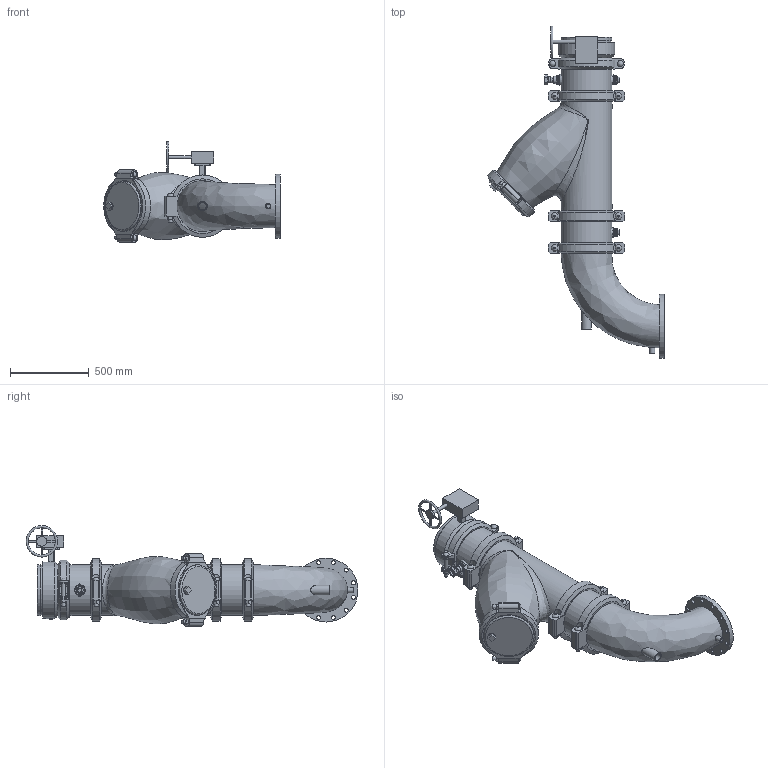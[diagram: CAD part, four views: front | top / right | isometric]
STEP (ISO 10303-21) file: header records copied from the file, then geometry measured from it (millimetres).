
FILE_DESCRIPTION(/* description */ ('VIC SVI PUMP DROP HORZ S/382 (OGSxFLG) (S/924-1.25)','CAx-IF Rec.Pracs.---Representation and Presentation of Product Manufacturing Information (PMI)---4.0---2014-10-13'),/* implementation_level */ '2;1');
FILE_NAME(/* name */ 'C:\Users\Vjadhav\AppData\Roaming\Autodesk\ApplicationPlugins\Victaulic.Temp\A562\Victaulic_IPS_Horizontal SVI_CL 150_Series 382 (OGSxFLG)_924 (1.25)_12.0x10.0 (300x250).stp',/* time_stamp */ '2022-02-28T20:01:15+06:00',/* author */ ('kkamble'),/* organization */ ('Victaulic'),/* preprocessor_version */ 'ST-DEVELOPER v17.2',/* originating_system */ 'Autodesk Inventor 2019',/* authorisation */ '');
FILE_SCHEMA (('AP242_MANAGED_MODEL_BASED_3D_ENGINEERING_MIM_LF { 1 0 10303 442 1 1 4 }'));
Length unit declared in the file: inch
Products named in the file (13): 382_924 (1.25)-12.0x10.0; PIPE-12.0; 107N-12.0; 732-12.0; 732-12.0_1; 07-12.0; 732-12.0_2; 077-12.0; PIPE-12.2; 761-12.0; 924-10.0x01.25; 923-10.0x0.75; R100F-12.0x10.0
Assembly tree (15 placements, depth 3):
  382_924 (1.25)-12.0x10.0
    PIPE-12.0
    107N-12.0
    732-12.0
      732-12.0_1
      07-12.0
      732-12.0_2
    077-12.0  x3
    PIPE-12.2
    761-12.0
    924-10.0x01.25
    923-10.0x0.75  x2
    R100F-12.0x10.0
Bounding box: 1123.95 x 2114.22 x 642.17 mm (x, y, z)
Volume: 47040205.9 mm3; surface area: 7402597.6 mm2
Topology: 14 solids, 24 shells, 761 faces, 1896 edges, 1280 vertices
Faces by surface type: plane 427, cylinder 258, bspline 36, cone 27, torus 9, sphere 4
Full cylindrical faces by diameter (mm): 10.922 x4, 20.066 x1, 21.336 x3, 22.225 x8, 22.86 x1, 25.4 x24, 26.67 x4, 27.432 x6, 31.75 x1, 34.29 x1, 37.694 x4, 38.608 x1, 42.164 x1, 45.974 x6, 48.26 x1, 48.514 x1, 50.8 x1, 55.626 x3, 60.96 x1, 63.079 x1, 70.104 x1, 76.2 x2, 254.508 x1, 292.1 x1, 303.225 x1, 304.216 x1, 304.546 x1, 304.8 x3, 311.15 x2, 314.96 x3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
Entity records: 24760 total; most frequent: CARTESIAN_POINT 9191, DIRECTION 3141, ORIENTED_EDGE 2912, EDGE_CURVE 1456, AXIS2_PLACEMENT_3D 1207, VERTEX_POINT 987, LINE 727, VECTOR 727
